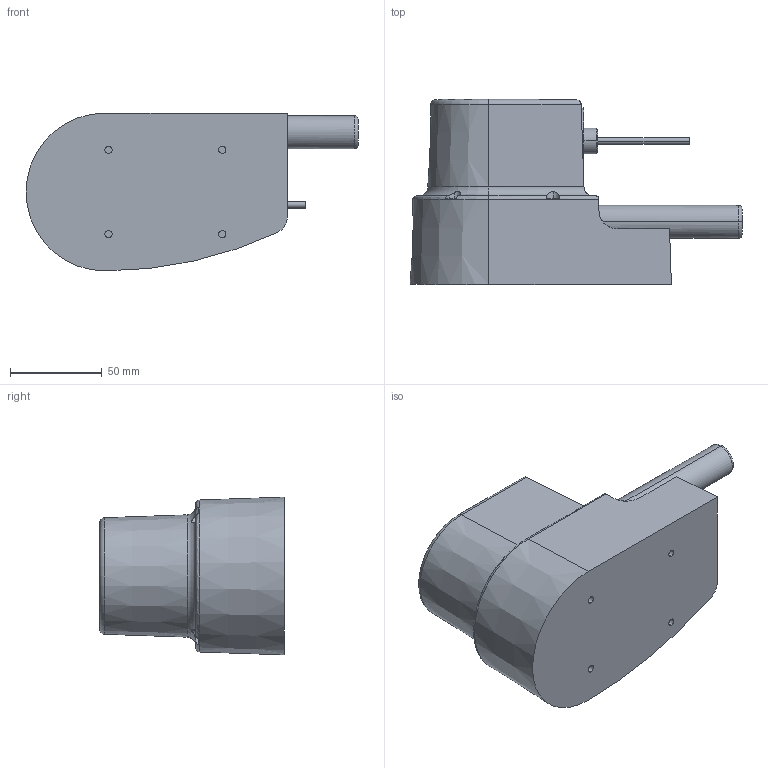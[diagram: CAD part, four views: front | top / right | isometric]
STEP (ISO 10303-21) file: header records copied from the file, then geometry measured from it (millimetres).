
FILE_DESCRIPTION (( 'STEP AP214' ), '1' );
FILE_NAME ('AC-04A_Part1.STEP', '2024-06-21T00:19:10', ( '' ), ( '' ), 'SwSTEP 2.0', 'SolidWorks 2023', '' );
FILE_SCHEMA (( 'AUTOMOTIVE_DESIGN' ));
Length unit declared in the file: millimetre
Products named in the file (1): AC-04A_Part1
Bounding box: 181 x 100.8 x 86 mm (x, y, z)
Volume: 729665 mm3; surface area: 56422.3 mm2
Topology: 1 solids, 1 shells, 136 faces, 319 edges, 204 vertices
Faces by surface type: cylinder 54, plane 52, torus 19, cone 6, bspline 5
Entity records: 4594 total; most frequent: CARTESIAN_POINT 1429, DIRECTION 687, ORIENTED_EDGE 638, EDGE_CURVE 319, AXIS2_PLACEMENT_3D 286, VERTEX_POINT 204, EDGE_LOOP 155, CIRCLE 154
